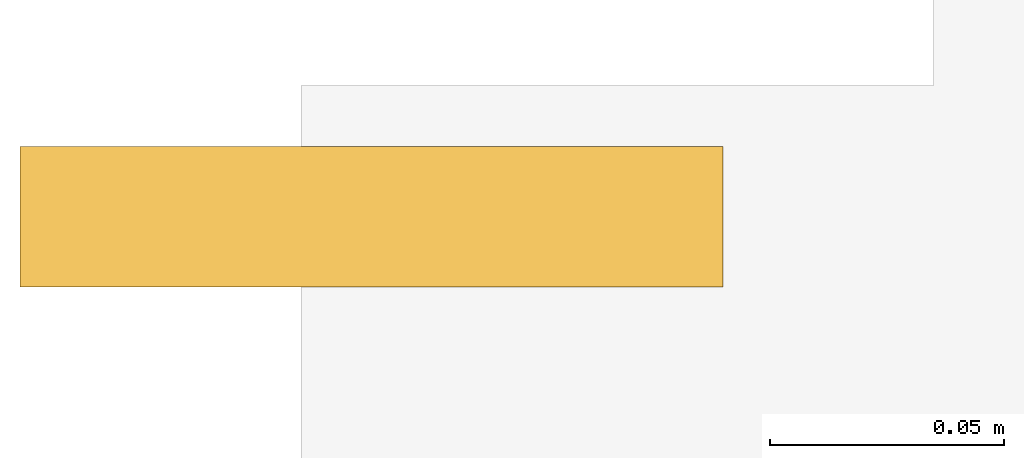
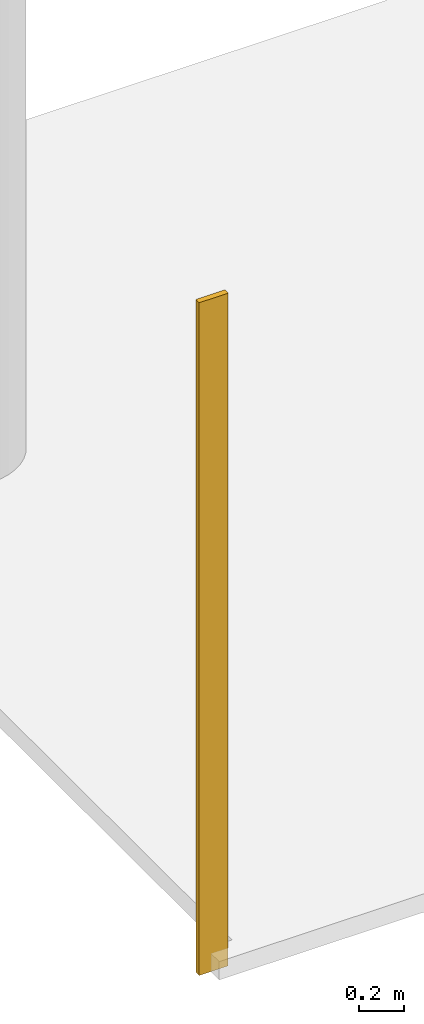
# One storey, part 6 of 6: 2 coverings.
"""IFC2X3 building model written with IfcOpenShell, lengths in millimetres."""

from ifc_helpers import new_model, entity, si_unit, converted_unit, derived_unit, direction, frame, origin_with_axes, place, context, subcontext, project, spatial, faceted_brep, material, element, save


model = new_model("IFC2X3")

# Units and contexts
model_context = context("Model", 3, precision=0.01, world=frame((0.0, 4.29681676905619e-09, 0.0)), true_north=direction((6.12323399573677e-17, 1.0)))
plan_context = context("Plan", 3, precision=0.01, world=frame((0.0, 4.29681676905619e-09, 0.0)), true_north=direction((6.12323399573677e-17, 1.0)))
body_context = subcontext(model_context, "Body", "Model", "MODEL_VIEW")
ifc_project = project(units=[converted_unit("PLANEANGLEUNIT", "DEGREE", entity("IfcPositiveLengthMeasure", 0.0174532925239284), si_unit("PLANEANGLEUNIT", "RADIAN"), dimensions=[0, 0, 0, 0, 0, 0, 0]), si_unit("AREAUNIT", "SQUARE_METRE"), si_unit("LENGTHUNIT", "METRE", prefix="MILLI"), si_unit("MASSUNIT", "GRAM", prefix="KILO"), si_unit("POWERUNIT", "WATT"), si_unit("PRESSUREUNIT", "PASCAL", prefix="KILO"), si_unit("FORCEUNIT", "NEWTON", prefix="KILO"), si_unit("ELECTRICVOLTAGEUNIT", "VOLT"), si_unit("ELECTRICCURRENTUNIT", "AMPERE"), si_unit("THERMODYNAMICTEMPERATUREUNIT", "DEGREE_CELSIUS"), si_unit("TIMEUNIT", "SECOND"), si_unit("VOLUMEUNIT", "CUBIC_METRE"), derived_unit("LINEARVELOCITYUNIT", [(si_unit("LENGTHUNIT", "METRE"), 1), (si_unit("TIMEUNIT", "SECOND"), -1)]), derived_unit("VOLUMETRICFLOWRATEUNIT", [(si_unit("VOLUMEUNIT", "CUBIC_METRE"), 1), (si_unit("TIMEUNIT", "SECOND"), -1)]), derived_unit("THERMALTRANSMITTANCEUNIT", [(si_unit("POWERUNIT", "WATT"), 1), (si_unit("THERMODYNAMICTEMPERATUREUNIT", "KELVIN"), -1), (si_unit("AREAUNIT", "SQUARE_METRE"), -1)]), derived_unit("SOUNDPRESSUREUNIT", [(si_unit("PRESSUREUNIT", "PASCAL"), 1)])], contexts=[model_context, plan_context])

# Site, building, storey
site_placement = place(None, frame((0.0, -4.29681676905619e-09, 0.0), z_axis=(0.0, 0.0, 1.0), x_axis=(1.0, 0.0, 0.0)))
site = spatial("IfcSite", under=ifc_project, at=site_placement, Name="Gardermoen", CompositionType="ELEMENT")
building_placement = place(site_placement, frame((0.0, 4.29681676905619e-09, 0.0), z_axis=(0.0, 0.0, 1.0), x_axis=(1.0, 0.0, 0.0)))
building = spatial("IfcBuilding", under=site, at=building_placement, Name="THO", CompositionType="ELEMENT")
storey_placement = place(building_placement, origin_with_axes())
storey = spatial("IfcBuildingStorey", under=building, at=storey_placement, Name="Nivå F", CompositionType="ELEMENT", Elevation=0.0)

# Coverings
ifc_material = material(Name="Undefined/MINERALULL")
for number, where, z_axis, x_axis, name in (
    (1, (1116100.0, 462452.5, 213695.0), (0.0, 0.0, 1.0), (-1.0, 0.0, 0.0), "SurfaceTreatment"),
    (2, (1116100.0, 462452.5, 213695.0), (0.0, 0.0, 1.0), (-1.0, 0.0, 0.0), "SurfaceTreatment"),
):
    element("IfcCovering", number, at=place(storey_placement, frame(where, z_axis=z_axis, x_axis=x_axis)), inside=storey, material=ifc_material, Name=name, PredefinedType="NOTDEFINED", context=body_context, shape_type="Brep", body=[
        faceted_brep([(150.0, -15.0, 0.0), (150.0, -15.0, -3665.00037193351), (150.0, 15.0, -3665.00037193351), (150.0, 15.0, 0.0), (0.0, -15.0, -3665.00037193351), (0.0, 15.0, -3665.00037193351), (0.0, -15.0, 0.0), (0.0, 15.0, 0.0)], [[[0, 1, 2, 3]], [[1, 4, 5, 2]], [[4, 6, 7, 5]], [[6, 0, 3, 7]], [[5, 7, 3, 2]], [[6, 4, 1, 0]]]),
    ])

save(model, "model.ifc")
